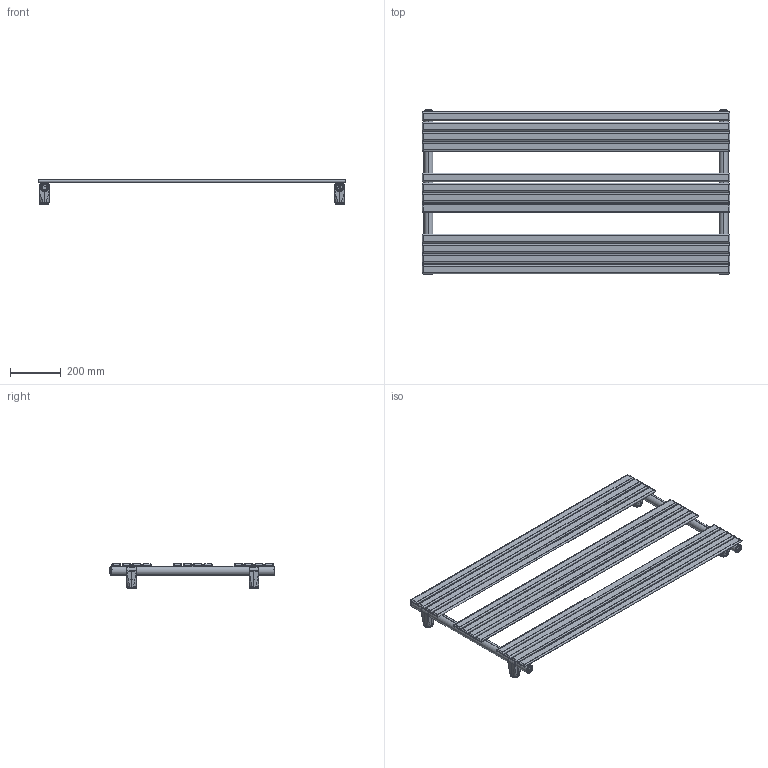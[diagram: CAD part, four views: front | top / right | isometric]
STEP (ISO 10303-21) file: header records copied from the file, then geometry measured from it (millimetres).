
FILE_DESCRIPTION (( 'STEP AP203' ), '1' );
FILE_NAME ('CA04X3S1210.STEP', '2026-03-04T16:05:01', ( '' ), ( '' ), 'SwSTEP 2.0', 'SolidWorks 2025', '' );
FILE_SCHEMA (( 'CONFIG_CONTROL_DESIGN' ));
Length unit declared in the file: millimetre
Products named in the file (10): supporto-MANINA-BUS; supporto_1.prt; supporto.asm; supporto_3.prt; supporto_2.prt; tappo_sfiato.prt; COLLETTORE INT 40 [Con configurazioni]_645 BAGNO; TRAVERSINO PIATTO 35 [Con configurazioni]_1210; tappo_sx.prt; CA04X3S1210
Assembly tree (24 placements, depth 4):
  CA04X3S1210
    TRAVERSINO PIATTO 35 [Con configurazioni]_1210  x12
    COLLETTORE INT 40 [Con configurazioni]_645 BAGNO  x2
    tappo_sfiato.prt
    tappo_sx.prt
    supporto-MANINA-BUS  x4
      supporto.asm
        supporto_1.prt
        supporto_2.prt
        supporto_3.prt
Bounding box: 1210 x 651 x 97 mm (x, y, z)
Volume: 2153520.8 mm3; surface area: 2649482.5 mm2
Topology: 26 solids, 30 shells, 1649 faces, 4188 edges, 2573 vertices
Faces by surface type: cylinder 524, plane 506, bspline 337, torus 128, cone 98, sphere 56
Entity records: 29880 total; most frequent: CARTESIAN_POINT 18824, ORIENTED_EDGE 2332, DIRECTION 1478, EDGE_CURVE 1170, VERTEX_POINT 715, B_SPLINE_CURVE_WITH_KNOTS 629, AXIS2_PLACEMENT_3D 603, EDGE_LOOP 480
